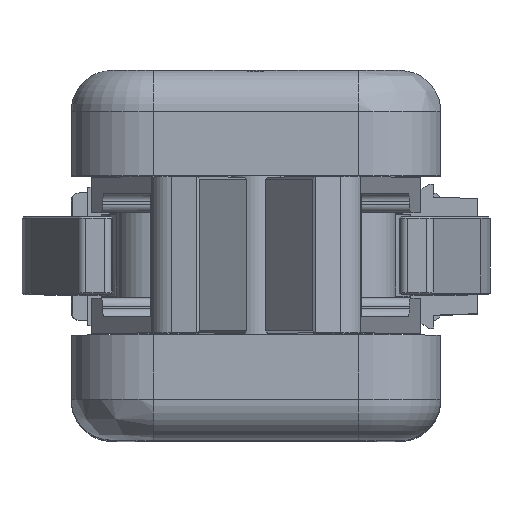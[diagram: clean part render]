
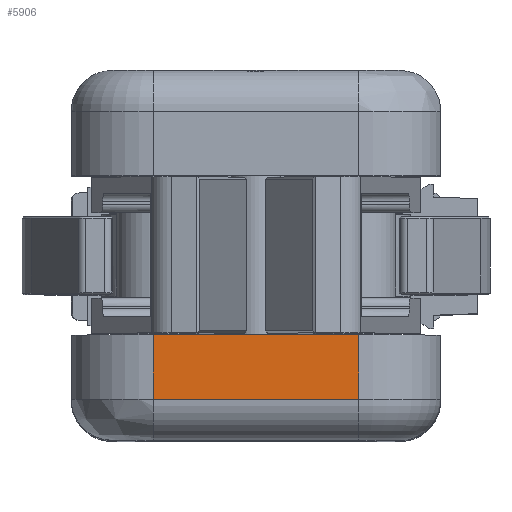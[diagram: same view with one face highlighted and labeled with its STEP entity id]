
A CAD part, top view. The second image highlights one B-rep face of the part: STEP entity #5906.
In plain terms, the highlighted planar face has unit normal (0, 0, 1).
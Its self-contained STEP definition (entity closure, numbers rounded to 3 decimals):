
#5906=ADVANCED_FACE('',(#6884),#6502,.F.);
#6502=PLANE('',#14756);
#6884=FACE_OUTER_BOUND('',#7371,.T.);
#7371=EDGE_LOOP('',(#8715,#8716,#8717,#8718));
#8715=ORIENTED_EDGE('',*,*,#12018,.T.);
#8716=ORIENTED_EDGE('',*,*,#12019,.T.);
#8717=ORIENTED_EDGE('',*,*,#12020,.T.);
#8718=ORIENTED_EDGE('',*,*,#12021,.T.);
#11030=VERTEX_POINT('',#19606);
#11031=VERTEX_POINT('',#19607);
#11032=VERTEX_POINT('',#19609);
#11033=VERTEX_POINT('',#19611);
#12018=EDGE_CURVE('',#11030,#11031,#13188,.T.);
#12019=EDGE_CURVE('',#11031,#11032,#13189,.T.);
#12020=EDGE_CURVE('',#11032,#11033,#13190,.T.);
#12021=EDGE_CURVE('',#11033,#11030,#13191,.T.);
#13188=LINE('',#19605,#13965);
#13189=LINE('',#19608,#13966);
#13190=LINE('',#19610,#13967);
#13191=LINE('',#19612,#13968);
#13965=VECTOR('',#16453,1.);
#13966=VECTOR('',#16454,1.);
#13967=VECTOR('',#16455,1.);
#13968=VECTOR('',#16456,1.);
#14756=AXIS2_PLACEMENT_3D('',#19613,#16457,#16458);
#16453=DIRECTION('',(1.,0.,0.));
#16454=DIRECTION('',(0.,1.,0.));
#16455=DIRECTION('',(-1.,0.,0.));
#16456=DIRECTION('',(0.,-1.,0.));
#16457=DIRECTION('',(0.,0.,-1.));
#16458=DIRECTION('',(-1.,0.,0.));
#19605=CARTESIAN_POINT('',(22.5,-17.5,203.));
#19606=CARTESIAN_POINT('',(-12.5,-17.5,203.));
#19607=CARTESIAN_POINT('',(12.5,-17.5,203.));
#19608=CARTESIAN_POINT('',(12.5,-22.5,203.));
#19609=CARTESIAN_POINT('',(12.5,-9.7,203.));
#19610=CARTESIAN_POINT('',(-22.5,-9.7,203.));
#19611=CARTESIAN_POINT('',(-12.5,-9.7,203.));
#19612=CARTESIAN_POINT('',(-12.5,-22.5,203.));
#19613=CARTESIAN_POINT('',(-22.5,-22.5,203.));
